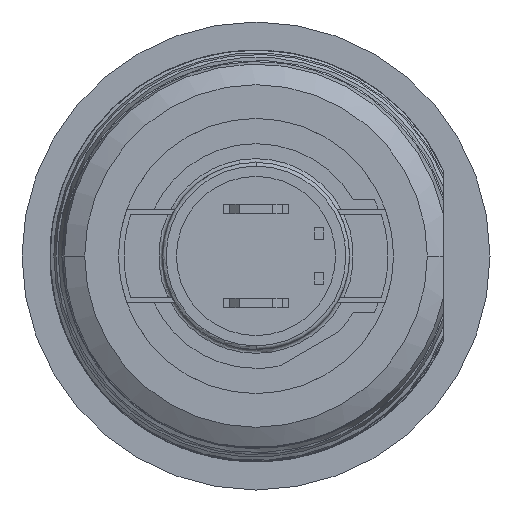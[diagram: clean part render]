
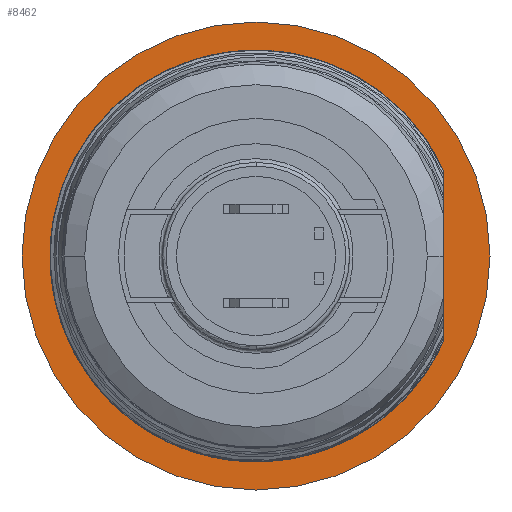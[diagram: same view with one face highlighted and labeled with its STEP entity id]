
A CAD part, front view. The second image highlights one B-rep face of the part: STEP entity #8462.
In plain terms, the highlighted planar face has unit normal (0, -1, 0).
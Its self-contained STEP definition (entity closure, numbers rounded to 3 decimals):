
#2296=CARTESIAN_POINT('',(0.,15.46,0.));
#2297=DIRECTION('',(0.,1.,0.));
#2298=DIRECTION('',(-1.,0.,0.));
#2299=AXIS2_PLACEMENT_3D('',#2296,#2297,#2298);
#2301=CARTESIAN_POINT('',(0.,15.46,0.));
#2302=DIRECTION('',(0.,1.,0.));
#2303=DIRECTION('',(1.,0.,0.));
#2304=AXIS2_PLACEMENT_3D('',#2301,#2302,#2303);
#3688=CARTESIAN_POINT('',(-12.5,15.46,0.));
#3689=CARTESIAN_POINT('',(12.5,15.46,0.));
#3690=VERTEX_POINT('',#3688);
#3691=VERTEX_POINT('',#3689);
#8451=CARTESIAN_POINT('',(0.,15.46,0.));
#8452=DIRECTION('',(0.,1.,0.));
#8453=DIRECTION('',(1.,0.,0.));
#8454=AXIS2_PLACEMENT_3D('',#8451,#8452,#8453);
#8455=PLANE('',#8454);
#8457=ORIENTED_EDGE('',*,*,#8456,.T.);
#8459=ORIENTED_EDGE('',*,*,#8458,.T.);
#8460=EDGE_LOOP('',(#8457,#8459));
#8461=FACE_OUTER_BOUND('',#8460,.F.);
#8462=ADVANCED_FACE('',(#8461),#8455,.F.);
#2300=CIRCLE('',#2299,12.5);
#2305=CIRCLE('',#2304,12.5);
#8456=EDGE_CURVE('',#3690,#3691,#2300,.T.);
#8458=EDGE_CURVE('',#3691,#3690,#2305,.T.);
